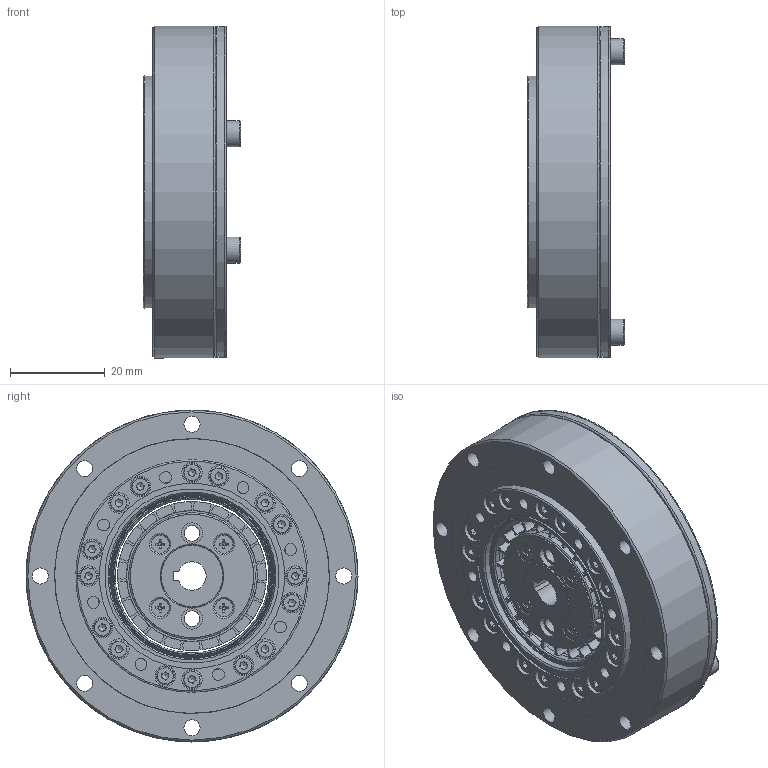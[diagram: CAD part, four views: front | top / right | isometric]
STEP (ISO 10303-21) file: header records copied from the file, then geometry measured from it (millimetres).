
FILE_DESCRIPTION (( 'STEP AP203' ), '1' );
FILE_NAME ('LHD-14-XXX-C-I.STEP', '2025-01-08T10:26:52', ( '' ), ( '' ), 'SwSTEP 2.0', 'SolidWorks 2023', '' );
FILE_SCHEMA (( 'CONFIG_CONTROL_DESIGN' ));
Length unit declared in the file: metre
Products named in the file (1): LHD-14-XXX-C-I
Bounding box: 20.5 x 70 x 70 mm (x, y, z)
Volume: 42991.5 mm3; surface area: 44369 mm2
Topology: 32 solids, 32 shells, 907 faces, 2110 edges, 1318 vertices
Faces by surface type: plane 466, cylinder 229, bspline 108, cone 104
Full cylindrical faces by diameter (mm): 1.6 x20, 2 x20, 2.4 x20, 2.5 x12, 3 x2, 3.3 x2, 3.4 x8, 3.5 x12, 3.8 x20, 4.3 x16, 4.4 x2, 5.5 x2, 13 x2, 23.5 x2, 24.1 x1, 25.07 x1, 25.5 x1, 26 x1, 26.5 x1, 26.63 x2, 27.6 x1, 29.5 x1, 31.4 x1, 32.4 x2, 33.8 x1, 33.9 x1, 34.6 x1, 34.8 x1, 35.5 x1, 36 x1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
Entity records: 29776 total; most frequent: CARTESIAN_POINT 10903, DIRECTION 3908, ORIENTED_EDGE 3390, EDGE_CURVE 1695, AXIS2_PLACEMENT_3D 1615, EDGE_LOOP 1422, VERTEX_POINT 1235, FACE_OUTER_BOUND 1128
